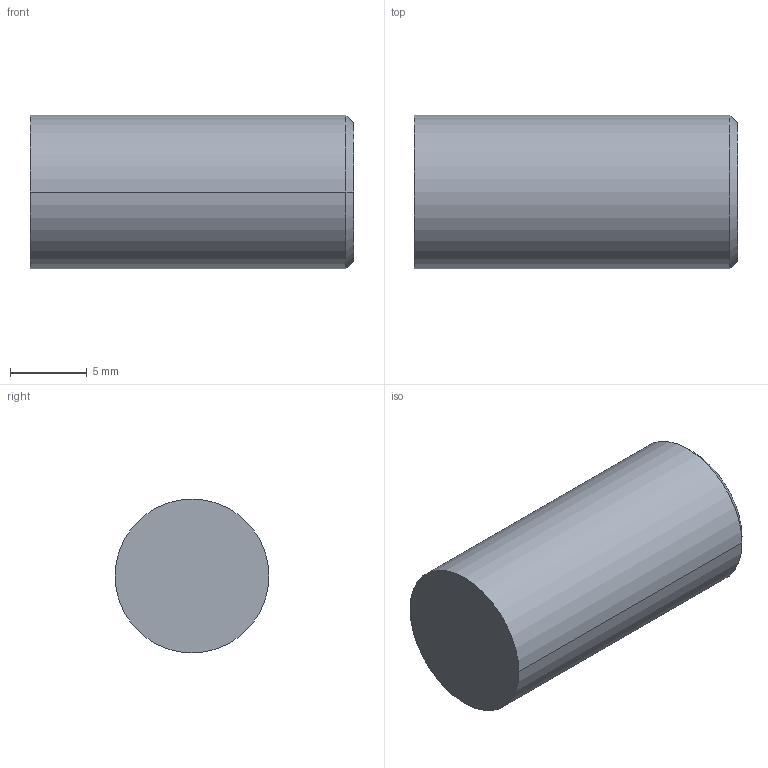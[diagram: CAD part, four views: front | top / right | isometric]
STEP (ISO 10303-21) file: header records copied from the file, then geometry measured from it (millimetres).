
FILE_DESCRIPTION((''),'2;1');
FILE_NAME('S600-1','2006-08-10T',('PAw'),(''),'PRO/ENGINEER BY PARAMETRIC TECHNOLOGY CORPORATION, 2004320','PRO/ENGINEER BY PARAMETRIC TECHNOLOGY CORPORATION, 2004320','');
FILE_SCHEMA(('CONFIG_CONTROL_DESIGN'));
Length unit declared in the file: millimetre
Products named in the file (1): S600-1
Bounding box: 21 x 10 x 10 mm (x, y, z)
Volume: 1645.5 mm3; surface area: 807.3 mm2
Topology: 1 solids, 1 shells, 6 faces, 10 edges, 6 vertices
Faces by surface type: plane 2, cylinder 2, cone 2
Entity records: 182 total; most frequent: DIRECTION 28, CARTESIAN_POINT 22, ORIENTED_EDGE 20, AXIS2_PLACEMENT_3D 12, EDGE_CURVE 10, VERTEX_POINT 6, EDGE_LOOP 6, FACE_OUTER_BOUND 6
